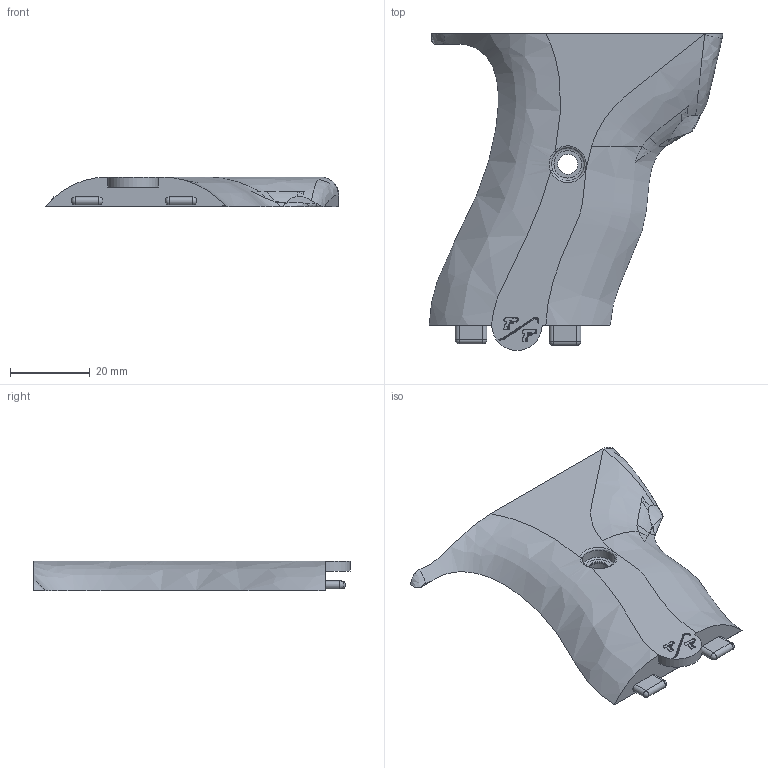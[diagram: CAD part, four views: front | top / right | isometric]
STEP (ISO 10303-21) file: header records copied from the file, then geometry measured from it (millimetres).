
FILE_DESCRIPTION(/* description */ (''),/* implementation_level */ '2;1');
FILE_NAME(/* name */ '//vboxsvr/bigsql-win-testing/CAD/DD2-GIT/freeman1337/freeman1337-lopoint-v2/Accessories/Grips/STEP/Freeman1337-lopoint-grip-R.step',/* time_stamp */ '2021-05-10T14:42:54-07:00',/* author */ (''),/* organization */ (''),/* preprocessor_version */ 'ST-DEVELOPER v18.1',/* originating_system */ 'Autodesk Translation Framework v10.6.0.1341',/* authorisation */ '');
FILE_SCHEMA (('AUTOMOTIVE_DESIGN { 1 0 10303 214 3 1 1 }'));
Products named in the file (1): Freeman1337-lopoint-grip-R
Bounding box: 73.56 x 79.31 x 7.5 mm (x, y, z)
Volume: 18883.7 mm3; surface area: 8894.7 mm2
Topology: 1 solids, 1 shells, 1979 faces, 5444 edges, 3623 vertices
Faces by surface type: bspline 1650, plane 306, cylinder 15, sphere 4, torus 4
Full cylindrical faces by diameter (mm): 5 x1, 8.2 x2
Entity records: 68579 total; most frequent: CARTESIAN_POINT 34543, ORIENTED_EDGE 10884, EDGE_CURVE 5442, VERTEX_POINT 3624, DIRECTION 2820, EDGE_LOOP 2140, LINE 2078, VECTOR 2078
